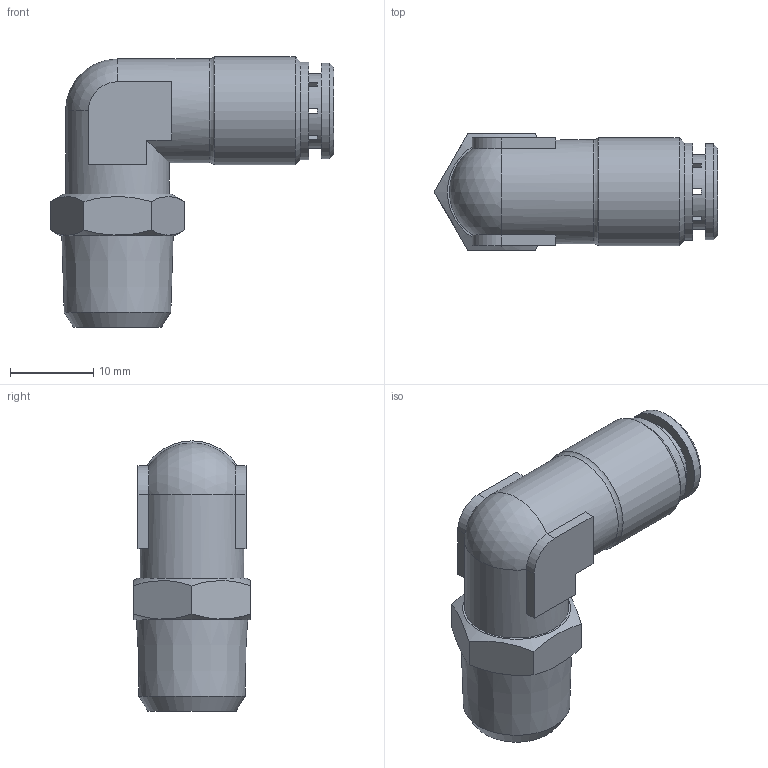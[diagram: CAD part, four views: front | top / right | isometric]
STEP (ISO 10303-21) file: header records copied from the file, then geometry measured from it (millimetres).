
FILE_DESCRIPTION(/* description */ (''),/* implementation_level */ '2;1');
FILE_NAME(/* name */ 'H220614_HDS_022K_6_1-4_30222_29.03.17',/* time_stamp */ '2017-03-29T16:54:05+02:00',/* author */ (''),/* organization */ (''),/* preprocessor_version */ 'ST-DEVELOPER v16.5',/* originating_system */ 'HiCAD 2016 2101.1 Build 311',/* authorisation */ '');
FILE_SCHEMA (('AUTOMOTIVE_DESIGN { 1 0 10303 214 1 1 1 1 }'));
Length unit declared in the file: millimetre
Products named in the file (4): Root; 540102-1; RIVOLUZIONE_2; ELEMENTO DI ROTAZIONE_0
Assembly tree (3 placements, depth 2):
  Root
    540102-1
    RIVOLUZIONE_2
    ELEMENTO DI ROTAZIONE_0
Bounding box: 34.08 x 14 x 32.5 mm (x, y, z)
Volume: 4569.2 mm3; surface area: 4731.3 mm2
Topology: 3 solids, 3 shells, 104 faces, 256 edges, 162 vertices
Faces by surface type: plane 63, cylinder 22, cone 16, torus 2, sphere 1
Full cylindrical faces by diameter (mm): 4 x2, 6 x1, 6.2 x1, 6.3 x1, 7 x1, 7.7 x1, 8.978 x1, 9 x2, 9.9 x1, 10.1 x2, 10.3 x2, 11.5 x1, 11.7 x1, 12.5 x2, 13 x1
Entity records: 5085 total; most frequent: CARTESIAN_POINT 636, DIRECTION 524, PRESENTATION_STYLE_ASSIGNMENT 413, COLOUR_RGB 412, DRAUGHTING_PRE_DEFINED_CURVE_FONT 410, CURVE_STYLE 410, OVER_RIDING_STYLED_ITEM 410, ORIENTED_EDGE 410
